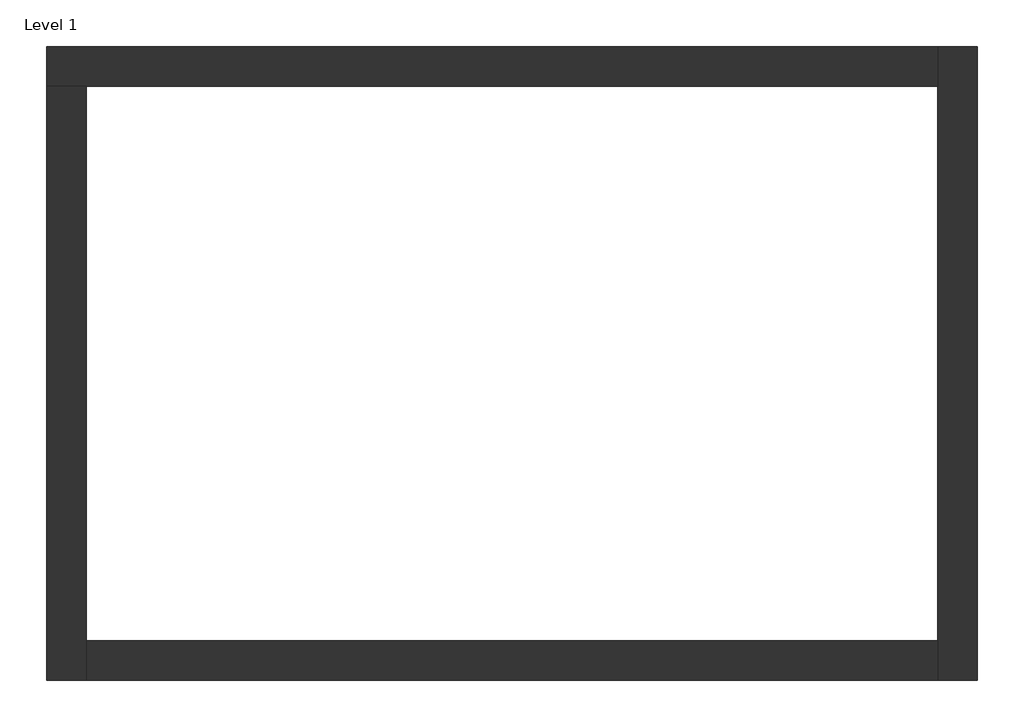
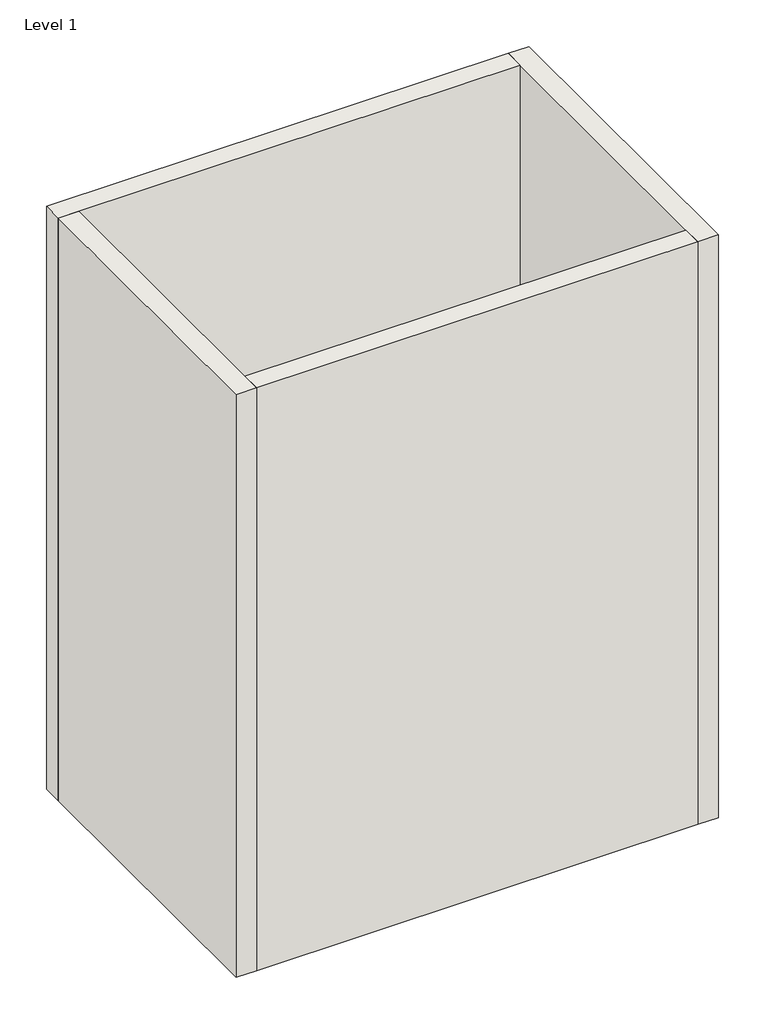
# One storey: 4 walls.
"""IFC4 building model written with IfcOpenShell, lengths in millimetres."""

from ifc_helpers import new_model, si_unit, origin, origin_with_axes, place, context, project, spatial, polyline, outline, extrude, faceted_brep, element, save

model = new_model("IFC4")

# Units and contexts
model_context = context("Model", 3, world=origin())
ifc_project = project(units=[si_unit("LENGTHUNIT", "METRE", prefix="MILLI")], contexts=[model_context])

# Site, building, storey
site = spatial("IfcSite", under=ifc_project)
building = spatial("IfcBuilding", under=site)
storey = spatial("IfcBuildingStorey", under=building, Name="Level 1", Elevation=0.0)

# Walls
placement = place(None, origin())
element("IfcWall", 1, ObjectType="Generic - 8\"", at=placement, inside=storey, context=model_context, shape_type="Brep", body=[
    faceted_brep([(-1561.1450105, -510.7476624, 0.0), (-1357.9450105, -510.7476624, 0.0), (3010.8549895, -510.7476624, 0.0), (3010.8549895, -510.7476624, 6096.0), (-1357.9450105, -510.7476624, 6096.0), (-1561.1450105, -510.7476624, 6096.0), (-1561.1450105, -307.5476624, 0.0), (-1561.1450105, -307.5476624, 6096.0), (3010.8549895, -307.5476624, 6096.0), (3010.8549895, -307.5476624, 0.0)], [[[0, 1, 2, 3, 4, 5]], [[6, 7, 8, 9]], [[2, 1, 0, 6, 9]], [[5, 4, 3, 8, 7]], [[0, 5, 7, 6]], [[3, 2, 9, 8]]]),
])
element("IfcWall", 2, ObjectType="Generic - 8\"", at=placement, inside=storey, context=model_context, shape_type="Brep", body=[
    faceted_brep([(-1357.9450105, -3558.7476624, 0.0), (-1357.9450105, -3355.5476624, 0.0), (-1357.9450105, -510.7476624, 0.0), (-1357.9450105, -510.7476624, 6096.0), (-1357.9450105, -3355.5476624, 6096.0), (-1357.9450105, -3558.7476624, 6096.0), (-1561.1450105, -3558.7476624, 0.0), (-1561.1450105, -3558.7476624, 6096.0), (-1561.1450105, -510.7476624, 6096.0), (-1561.1450105, -510.7476624, 0.0)], [[[0, 1, 2, 3, 4, 5]], [[6, 7, 8, 9]], [[2, 1, 0, 6, 9]], [[5, 4, 3, 8, 7]], [[0, 5, 7, 6]], [[3, 2, 9, 8]]]),
])
element("IfcWall", 3, ObjectType="Generic - 8\"", at=placement, inside=storey, context=model_context, shape_type="SweptSolid", body=[
    extrude(outline(polyline([(-1357.9450105, -3355.5476624), (3010.8549895, -3355.5476624), (3010.8549895, -3558.7476624), (-1357.9450105, -3558.7476624), (-1357.9450105, -3355.5476624)])), origin_with_axes(), (0.0, 0.0, 1.0), 6096.0),
])
element("IfcWall", 4, ObjectType="Generic - 8\"", at=placement, inside=storey, context=model_context, shape_type="Brep", body=[
    faceted_brep([(3010.8549895, -307.5476624, 0.0), (3010.8549895, -510.7476624, 0.0), (3010.8549895, -3355.5476624, 0.0), (3010.8549895, -3558.7476624, 0.0), (3010.8549895, -3558.7476624, 6096.0), (3010.8549895, -3355.5476624, 6096.0), (3010.8549895, -510.7476624, 6096.0), (3010.8549895, -307.5476624, 6096.0), (3214.0549895, -307.5476624, 0.0), (3214.0549895, -307.5476624, 6096.0), (3214.0549895, -3558.7476624, 6096.0), (3214.0549895, -3558.7476624, 0.0)], [[[0, 1, 2, 3, 4, 5, 6, 7]], [[8, 9, 10, 11]], [[3, 2, 1, 0, 8, 11]], [[7, 6, 5, 4, 10, 9]], [[0, 7, 9, 8]], [[4, 3, 11, 10]]]),
])

save(model, "model.ifc")
